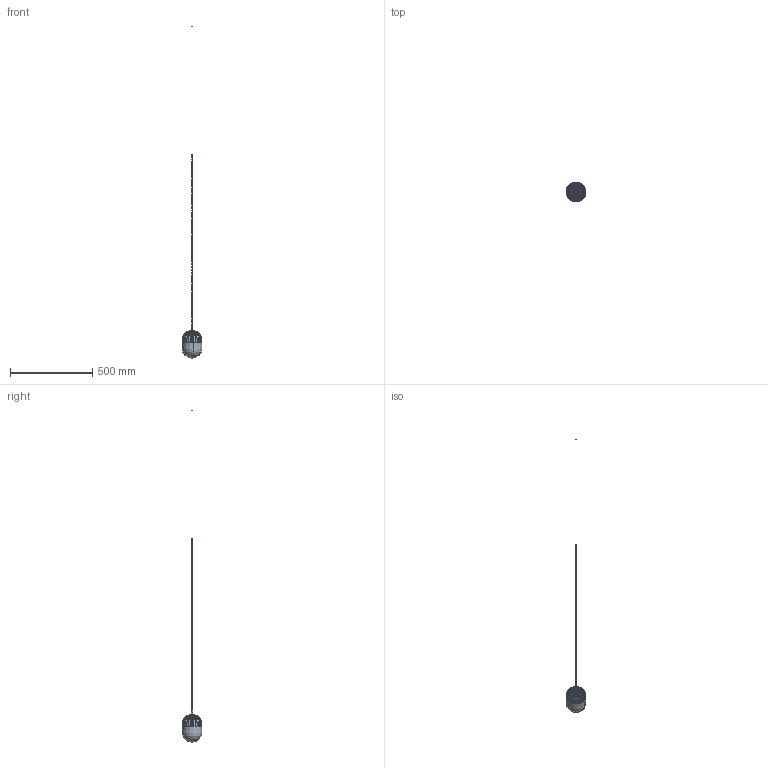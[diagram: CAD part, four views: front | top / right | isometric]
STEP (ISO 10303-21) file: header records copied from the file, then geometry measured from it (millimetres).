
FILE_DESCRIPTION(/* description */ (''),/* implementation_level */ '2;1');
FILE_NAME(/* name */ 'Dot pendant medium',/* time_stamp */ '2020-03-18T13:26:58+01:00',/* author */ (''),/* organization */ (''),/* preprocessor_version */ 'ST-DEVELOPER v15',/* originating_system */ '',/* authorisation */ '');
FILE_SCHEMA (('AUTOMOTIVE_DESIGN'));
Products named in the file (1): Document
Bounding box: 120 x 120 x 2015.58 mm (x, y, z)
Surface area: 161501.2 mm2
Topology: 1 solids, 755 shells, 1344 faces, 5654 edges, 4478 vertices
Faces by surface type: bspline 1344
Entity records: 158362 total; most frequent: CARTESIAN_POINT 96970, B_SPLINE_CURVE_WITH_KNOTS 10363, ORIENTED_EDGE 6828, PCURVE 6828, DEFINITIONAL_REPRESENTATION 6828, SURFACE_CURVE 5650, EDGE_CURVE 5650, VERTEX_POINT 4478
